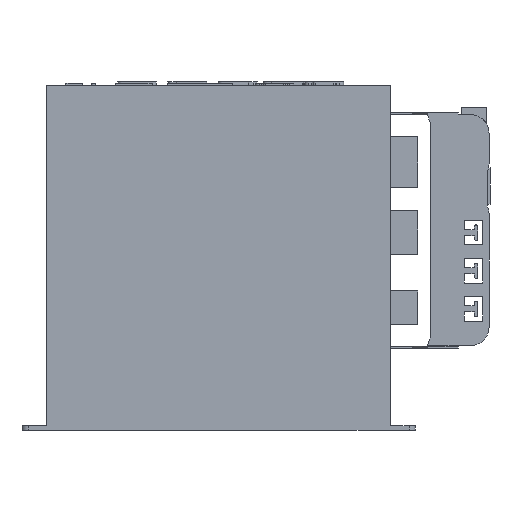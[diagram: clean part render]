
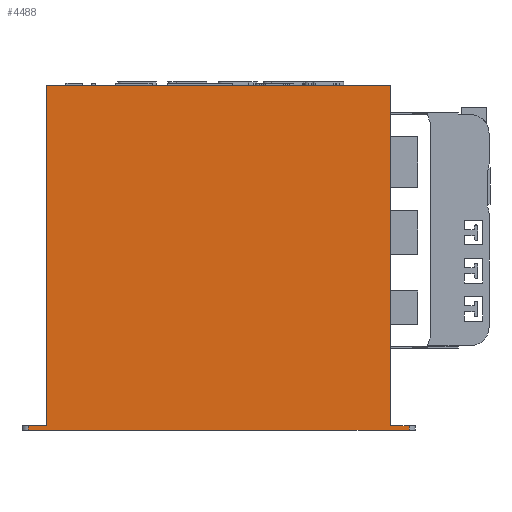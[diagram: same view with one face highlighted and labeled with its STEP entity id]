
A CAD part, front view. The second image highlights one B-rep face of the part: STEP entity #4488.
In plain terms, the highlighted planar face has unit normal (0, -1, 0).
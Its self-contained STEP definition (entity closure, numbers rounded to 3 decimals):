
#13=DIRECTION('',(1.,0.,0.));
#14=VECTOR('',#13,280.);
#15=CARTESIAN_POINT('',(-142.5,-10.8,137.7));
#16=LINE('',#15,#14);
#619=DIRECTION('',(1.,0.,0.));
#620=VECTOR('',#619,15.);
#621=CARTESIAN_POINT('',(137.5,-10.8,-139.1));
#622=LINE('',#621,#620);
#636=DIRECTION('',(1.,0.,0.));
#637=VECTOR('',#636,15.);
#638=CARTESIAN_POINT('',(-157.5,-10.8,-139.1));
#639=LINE('',#638,#637);
#829=DIRECTION('',(0.,0.,-1.));
#830=VECTOR('',#829,3.6);
#831=CARTESIAN_POINT('',(152.5,-10.8,-139.1));
#832=LINE('',#831,#830);
#833=DIRECTION('',(-1.,0.,0.));
#834=VECTOR('',#833,310.);
#835=CARTESIAN_POINT('',(152.5,-10.8,-142.7));
#836=LINE('',#835,#834);
#837=DIRECTION('',(0.,0.,-1.));
#838=VECTOR('',#837,3.6);
#839=CARTESIAN_POINT('',(-157.5,-10.8,-139.1));
#840=LINE('',#839,#838);
#841=DIRECTION('',(0.,0.,-1.));
#842=VECTOR('',#841,276.8);
#843=CARTESIAN_POINT('',(-142.5,-10.8,137.7));
#844=LINE('',#843,#842);
#873=DIRECTION('',(0.,0.,-1.));
#874=VECTOR('',#873,276.8);
#875=CARTESIAN_POINT('',(137.5,-10.8,137.7));
#876=LINE('',#875,#874);
#2938=CARTESIAN_POINT('',(-142.5,-10.8,137.7));
#2940=VERTEX_POINT('',#2938);
#2941=CARTESIAN_POINT('',(137.5,-10.8,137.7));
#2942=VERTEX_POINT('',#2941);
#2946=CARTESIAN_POINT('',(-142.5,-10.8,-139.1));
#2948=VERTEX_POINT('',#2946);
#2949=CARTESIAN_POINT('',(137.5,-10.8,-139.1));
#2951=VERTEX_POINT('',#2949);
#3750=CARTESIAN_POINT('',(152.5,-10.8,-142.7));
#3752=VERTEX_POINT('',#3750);
#3753=CARTESIAN_POINT('',(152.5,-10.8,-139.1));
#3754=VERTEX_POINT('',#3753);
#3765=CARTESIAN_POINT('',(-157.5,-10.8,-142.7));
#3767=VERTEX_POINT('',#3765);
#3771=CARTESIAN_POINT('',(-157.5,-10.8,-139.1));
#3772=VERTEX_POINT('',#3771);
#4471=CARTESIAN_POINT('',(-142.5,-10.8,137.7));
#4472=DIRECTION('',(0.,-1.,0.));
#4473=DIRECTION('',(1.,0.,0.));
#4474=AXIS2_PLACEMENT_3D('',#4471,#4472,#4473);
#4475=PLANE('',#4474);
#4476=ORIENTED_EDGE('',*,*,#4464,.T.);
#4477=ORIENTED_EDGE('',*,*,#4193,.T.);
#4479=ORIENTED_EDGE('',*,*,#4478,.F.);
#4480=ORIENTED_EDGE('',*,*,#4134,.T.);
#4481=ORIENTED_EDGE('',*,*,#4083,.F.);
#4482=ORIENTED_EDGE('',*,*,#3830,.T.);
#4484=ORIENTED_EDGE('',*,*,#4483,.T.);
#4485=ORIENTED_EDGE('',*,*,#4115,.T.);
#4486=EDGE_LOOP('',(#4476,#4477,#4479,#4480,#4481,#4482,#4484,#4485));
#4487=FACE_OUTER_BOUND('',#4486,.F.);
#3830=EDGE_CURVE('',#2940,#2942,#16,.T.);
#4083=EDGE_CURVE('',#2940,#2948,#844,.T.);
#4115=EDGE_CURVE('',#2951,#3754,#622,.T.);
#4134=EDGE_CURVE('',#3772,#2948,#639,.T.);
#4193=EDGE_CURVE('',#3752,#3767,#836,.T.);
#4464=EDGE_CURVE('',#3754,#3752,#832,.T.);
#4478=EDGE_CURVE('',#3772,#3767,#840,.T.);
#4483=EDGE_CURVE('',#2942,#2951,#876,.T.);
#4488=ADVANCED_FACE('',(#4487),#4475,.T.);
